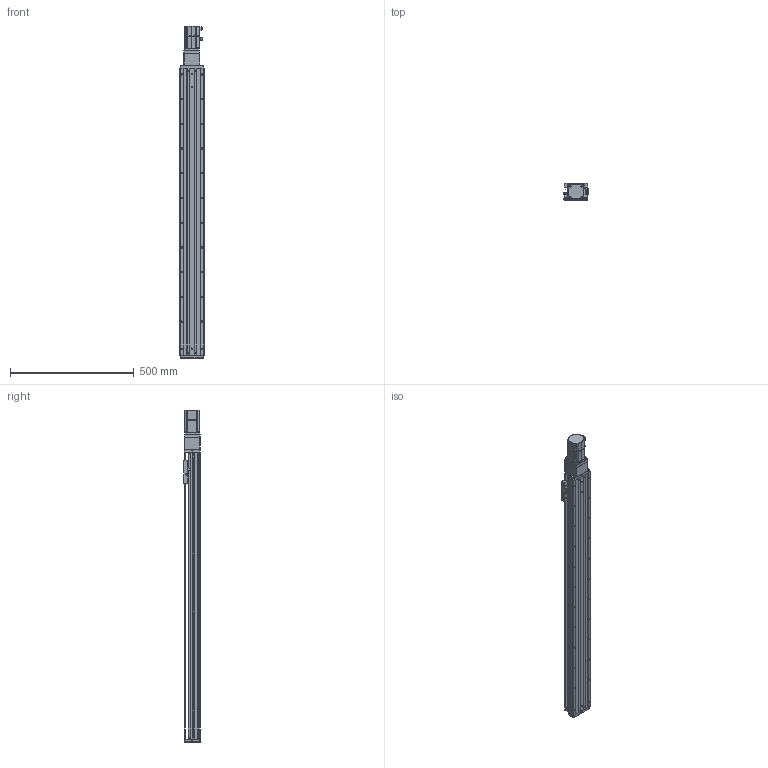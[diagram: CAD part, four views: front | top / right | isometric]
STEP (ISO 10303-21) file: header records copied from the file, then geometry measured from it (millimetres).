
FILE_DESCRIPTION (( 'STEP AP203' ), '1' );
FILE_NAME ('KTHA100-1000-BC-M20-C4L.step', '2022-04-26T01:43:00', ( '微软用户' ), ( '微软中国' ), 'SwSTEP 2.0', 'SolidWorks 2020', '' );
FILE_SCHEMA (( 'CONFIG_CONTROL_DESIGN' ));
Length unit declared in the file: millimetre
Products named in the file (18): GBT70.1 M5℅16; KTHA100-1000-BC-M20-C4L; GB¨uT 70.2-M3¡Á5_M3¡Á6; CTHA60-016; EE_SX911P_R; GBT 70.3-M3℅6; CTHA60-017; _X2_4E0983F1_X0_200W_1; KTHA100-001_1160; CTHA60-021; CTHA86-013; KTHA100-002; GBT77-2000 M3×3; CTHA86-027; KTHA100-004; GBT 70.1-M3℅6; CTHA86-006-1_CTHA86-006-2; KTHA100-005
Assembly tree (56 placements, depth 2):
  KTHA100-1000-BC-M20-C4L
    KTHA100-001_1160
    KTHA100-002
    KTHA100-004
    KTHA100-005
    GB¨uT 70.2-M3¡Á5_M3¡Á6  x6
    EE_SX911P_R  x3
    CTHA60-017  x3
    CTHA60-021  x2
    GBT77-2000 M3×3  x6
    GBT 70.1-M3℅6  x6
    GBT70.1 M5℅16  x14
    CTHA60-016  x2
    GBT 70.3-M3℅6  x6
    _X2_4E0983F1_X0_200W_1
    CTHA86-013
    CTHA86-027
    CTHA86-006-1_CTHA86-006-2
Bounding box: 98.82 x 68 x 1342.5 mm (x, y, z)
Volume: 4950525.6 mm3; surface area: 814184.9 mm2
Topology: 59 solids, 59 shells, 2487 faces, 5968 edges, 3688 vertices
Faces by surface type: plane 1275, cylinder 685, cone 338, torus 104, bspline 69, sphere 16
Entity records: 44182 total; most frequent: CARTESIAN_POINT 8423, DIRECTION 6989, ORIENTED_EDGE 6704, EDGE_CURVE 3352, AXIS2_PLACEMENT_3D 2426, VECTOR 2137, LINE 2137, VERTEX_POINT 2106
